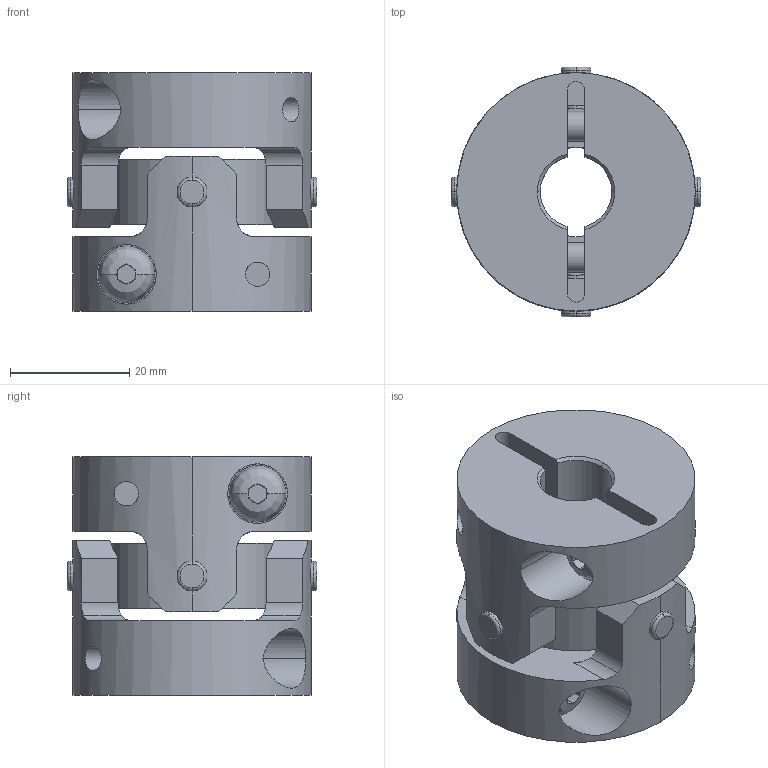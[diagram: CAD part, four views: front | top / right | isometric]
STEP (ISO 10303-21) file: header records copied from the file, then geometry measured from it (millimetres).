
FILE_DESCRIPTION((''),'2;1');
FILE_NAME('UA-40C-12×15.stp','2013-05-22T09:32:06',(''),(''),'AutoCAD STEP 2000i','AutoCAD 2000i',', , ');
FILE_SCHEMA(('CONFIG_CONTROL_DESIGN'));
Length unit declared in the file: millimetre
Products named in the file (6): UA-40C-8×8; 忣兜1; UA-4002-D08-1; BTN-M5; UA-4002-D08; UA40-SEN
Assembly tree (6 placements, depth 3):
  UA-40C-8×8
    忣兜1
    UA-4002-D08-1
      BTN-M5
    UA-4002-D08
      BTN-M5
    UA40-SEN
Bounding box: 41.81 x 41.81 x 40 mm (x, y, z)
Volume: 33262.3 mm3; surface area: 15512.3 mm2
Topology: 1 solids, 1 shells, 250 faces, 646 edges, 408 vertices
Faces by surface type: plane 122, cylinder 96, cone 16, bspline 8, torus 8
Entity records: 9627 total; most frequent: CARTESIAN_POINT 3371, ORIENTED_EDGE 1292, DIRECTION 1288, EDGE_CURVE 646, AXIS2_PLACEMENT_3D 497, VERTEX_POINT 408, VECTOR 294, LINE 294
